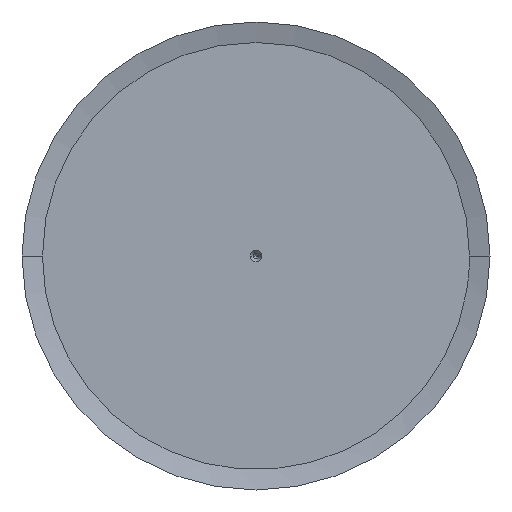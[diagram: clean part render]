
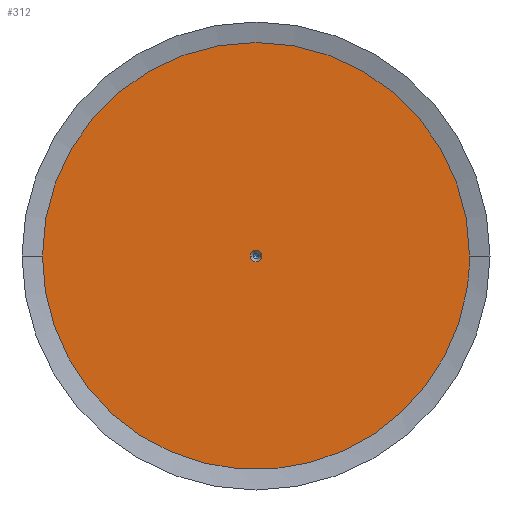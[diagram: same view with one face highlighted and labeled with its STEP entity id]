
A CAD part, left-side view. The second image highlights one B-rep face of the part: STEP entity #312.
In plain terms, the highlighted planar face has unit normal (-1, 0, 0).
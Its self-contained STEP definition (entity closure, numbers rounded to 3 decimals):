
#312=ADVANCED_FACE('',(#850,#851),#852,.T.);
#850=FACE_BOUND('',#1391,.T.);
#851=FACE_OUTER_BOUND('',#1392,.T.);
#852=PLANE('',#1393);
#1391=EDGE_LOOP('',(#3741,#3742));
#1392=EDGE_LOOP('',(#3743,#3744,#3745));
#1393=AXIS2_PLACEMENT_3D('',#3746,#3747,#3748);
#3741=ORIENTED_EDGE('',*,*,#4010,.T.);
#3742=ORIENTED_EDGE('',*,*,#4023,.T.);
#3743=ORIENTED_EDGE('',*,*,#3877,.T.);
#3744=ORIENTED_EDGE('',*,*,#4375,.T.);
#3745=ORIENTED_EDGE('',*,*,#3878,.T.);
#3746=CARTESIAN_POINT('',(0.0,0.0,0.0));
#3747=DIRECTION('',(-1.0,0.0,0.0));
#3748=DIRECTION('',(0.0,0.0,1.0));
#3877=EDGE_CURVE('',#4767,#4765,#4768,.T.);
#3878=EDGE_CURVE('',#4762,#4767,#4769,.T.);
#4010=EDGE_CURVE('',#5022,#5024,#5026,.T.);
#4023=EDGE_CURVE('',#5024,#5022,#5046,.T.);
#4375=EDGE_CURVE('',#4765,#4762,#5605,.T.);
#4762=VERTEX_POINT('',#6470);
#4765=VERTEX_POINT('',#6474);
#4767=VERTEX_POINT('',#6477);
#4768=CIRCLE('',#6478,73.0);
#4769=CIRCLE('',#6479,73.0);
#5022=VERTEX_POINT('',#7154);
#5024=VERTEX_POINT('',#7157);
#5026=CIRCLE('',#7160,2.0);
#5046=CIRCLE('',#7186,2.0);
#5605=CIRCLE('',#8248,73.0);
#6470=CARTESIAN_POINT('',(0.0,73.0,0.));
#6474=CARTESIAN_POINT('',(0.0,-73.0,0.));
#6477=CARTESIAN_POINT('',(0.0,-72.13,-11.237));
#6478=AXIS2_PLACEMENT_3D('',#9087,#9088,#9089);
#6479=AXIS2_PLACEMENT_3D('',#9090,#9091,#9092);
#7154=CARTESIAN_POINT('',(0.0,2.0,0.0));
#7157=CARTESIAN_POINT('',(0.0,-2.0,0.));
#7160=AXIS2_PLACEMENT_3D('',#9250,#9251,#9252);
#7186=AXIS2_PLACEMENT_3D('',#9277,#9278,#9279);
#8248=AXIS2_PLACEMENT_3D('',#9954,#9955,#9956);
#9087=CARTESIAN_POINT('',(0.0,0.0,0.0));
#9088=DIRECTION('',(-1.0,0.0,0.0));
#9089=DIRECTION('',(0.0,1.0,0.0));
#9090=CARTESIAN_POINT('',(0.0,0.0,0.0));
#9091=DIRECTION('',(-1.0,0.0,0.0));
#9092=DIRECTION('',(0.0,1.0,0.0));
#9250=CARTESIAN_POINT('',(0.0,0.0,0.0));
#9251=DIRECTION('',(1.0,0.0,0.0));
#9252=DIRECTION('',(0.0,1.0,0.0));
#9277=CARTESIAN_POINT('',(0.0,0.0,0.0));
#9278=DIRECTION('',(1.0,0.0,0.0));
#9279=DIRECTION('',(0.0,1.0,0.0));
#9954=CARTESIAN_POINT('',(0.0,0.0,0.0));
#9955=DIRECTION('',(-1.0,0.0,0.0));
#9956=DIRECTION('',(0.0,1.0,0.0));
